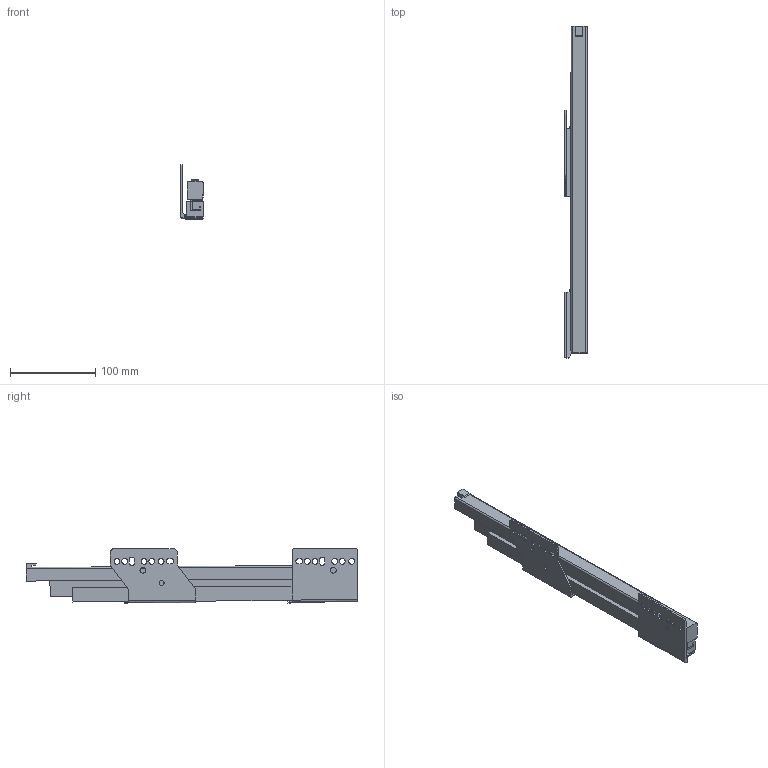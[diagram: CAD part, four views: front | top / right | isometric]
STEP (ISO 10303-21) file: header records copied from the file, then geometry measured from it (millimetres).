
FILE_DESCRIPTION (( 'STEP AP214' ), '1' );
FILE_NAME ('_IMOS_NOVA-Pro_KS_P904_LI_NL400_EB29.step', '2010-07-06T07:17:39', ( 'grass' ), ( '' ), 'SwSTEP 2.0', 'SolidWorks 2009', '' );
FILE_SCHEMA (( 'AUTOMOTIVE_DESIGN' ));
Length unit declared in the file: millimetre
Products named in the file (1): _IMOS_NOVA-Pro_KS_P904_LI_NL400_EB29
Bounding box: 26.75 x 390.39 x 64.46 mm (x, y, z)
Volume: 298381.2 mm3; surface area: 124625.7 mm2
Topology: 6 solids, 6 shells, 144 faces, 392 edges, 260 vertices
Faces by surface type: plane 89, cylinder 55
Entity records: 4691 total; most frequent: CARTESIAN_POINT 848, ORIENTED_EDGE 784, DIRECTION 765, EDGE_CURVE 392, LINE 275, VECTOR 275, VERTEX_POINT 260, AXIS2_PLACEMENT_3D 245
